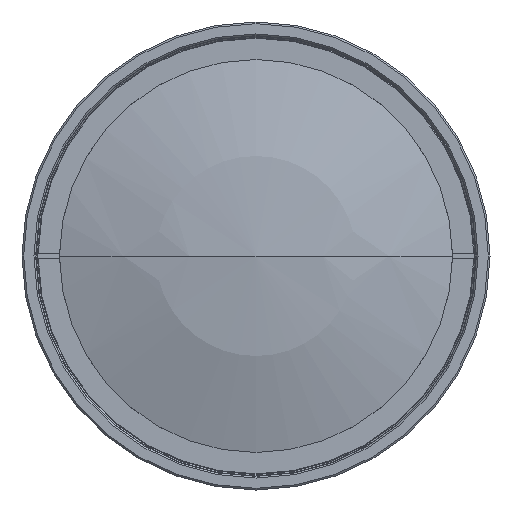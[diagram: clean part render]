
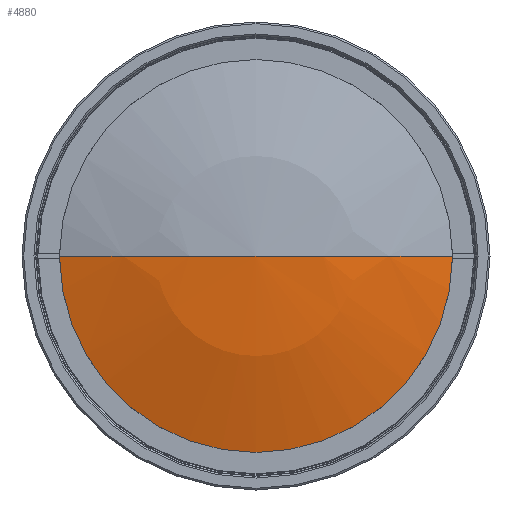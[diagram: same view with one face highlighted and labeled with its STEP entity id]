
A CAD part, left-side view. The second image highlights one B-rep face of the part: STEP entity #4880.
In plain terms, the highlighted spherical face has radius 106.979 mm.
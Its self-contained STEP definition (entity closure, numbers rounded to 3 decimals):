
#1268=CARTESIAN_POINT('',(-90.225,0.,0.));
#1269=DIRECTION('',(-1.,0.,0.));
#1270=DIRECTION('',(0.,1.,0.));
#1271=AXIS2_PLACEMENT_3D('',#1268,#1269,#1270);
#1278=CARTESIAN_POINT('',(11.151,0.,0.));
#1279=DIRECTION('',(0.,0.,-1.));
#1280=DIRECTION('',(-0.948,-0.319,0.));
#1281=AXIS2_PLACEMENT_3D('',#1278,#1279,#1280);
#1283=CARTESIAN_POINT('',(11.151,0.,0.));
#1284=DIRECTION('',(0.,0.,1.));
#1285=DIRECTION('',(-0.948,0.319,0.));
#1286=AXIS2_PLACEMENT_3D('',#1283,#1284,#1285);
#3051=CARTESIAN_POINT('',(-90.225,34.167,0.));
#3052=CARTESIAN_POINT('',(-90.225,-34.167,0.));
#3053=VERTEX_POINT('',#3051);
#3054=VERTEX_POINT('',#3052);
#3055=CARTESIAN_POINT('',(-95.828,0.,0.));
#3056=VERTEX_POINT('',#3055);
#4868=CARTESIAN_POINT('',(11.151,0.,0.));
#4869=DIRECTION('',(-1.,0.,0.));
#4870=DIRECTION('',(0.,1.,0.));
#4871=AXIS2_PLACEMENT_3D('',#4868,#4869,#4870);
#4872=SPHERICAL_SURFACE('',#4871,106.979);
#4873=ORIENTED_EDGE('',*,*,#4849,.F.);
#4875=ORIENTED_EDGE('',*,*,#4874,.T.);
#4877=ORIENTED_EDGE('',*,*,#4876,.F.);
#4878=EDGE_LOOP('',(#4873,#4875,#4877));
#4879=FACE_OUTER_BOUND('',#4878,.F.);
#1272=CIRCLE('',#1271,34.167);
#1282=CIRCLE('',#1281,106.979);
#1287=CIRCLE('',#1286,106.979);
#4849=EDGE_CURVE('',#3053,#3054,#1272,.T.);
#4874=EDGE_CURVE('',#3053,#3056,#1287,.T.);
#4876=EDGE_CURVE('',#3054,#3056,#1282,.T.);
#4880=ADVANCED_FACE('',(#4879),#4872,.T.);
